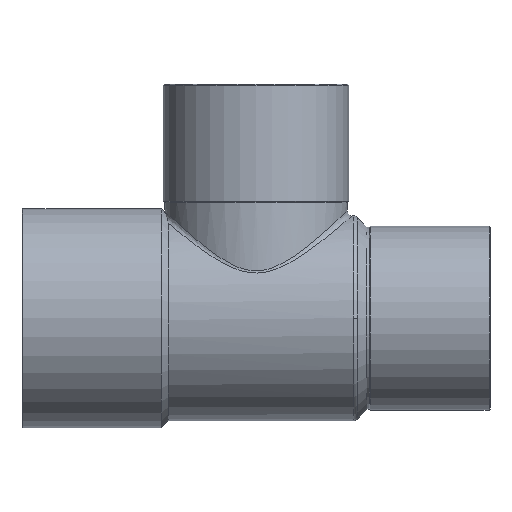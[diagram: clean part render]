
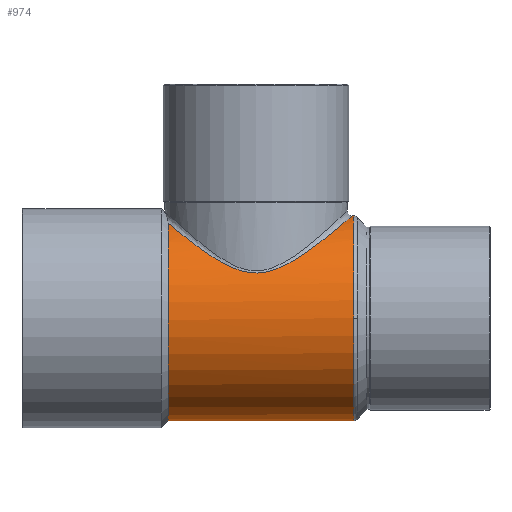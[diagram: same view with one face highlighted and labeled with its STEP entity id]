
A CAD part, top view. The second image highlights one B-rep face of the part: STEP entity #974.
In plain terms, the highlighted cylindrical face has radius 21 mm (diameter 42 mm), a partial arc.
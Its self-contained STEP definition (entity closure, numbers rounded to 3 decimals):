
#356=CARTESIAN_POINT('',(-17.987,-21.0,0.));
#357=VERTEX_POINT('',#356);
#364=CARTESIAN_POINT('',(-17.987,19.503,7.787));
#365=VERTEX_POINT('',#364);
#366=CARTESIAN_POINT('',(-17.987,0.0,0.0));
#367=DIRECTION('',(1.0,0.0,0.0));
#368=DIRECTION('',(0.0,1.0,0.0));
#369=AXIS2_PLACEMENT_3D('',#366,#367,#368);
#370=CIRCLE('',#369,21.0);
#371=EDGE_CURVE('',#365,#357,#370,.T.);
#904=CARTESIAN_POINT('',(1.225,0.0,0.0));
#905=DIRECTION('',(1.0,0.0,0.0));
#906=DIRECTION('',(0.0,1.0,0.0));
#907=AXIS2_PLACEMENT_3D('',#904,#905,#906);
#908=CYLINDRICAL_SURFACE('',#907,21.0);
#909=CARTESIAN_POINT('',(19.75,21.0,0.));
#910=VERTEX_POINT('',#909);
#911=CARTESIAN_POINT('',(20.022,21.0,0.0));
#912=VERTEX_POINT('',#911);
#913=CARTESIAN_POINT('',(19.75,21.0,0.));
#914=DIRECTION('',(1.0,0.0,0.));
#915=VECTOR('',#914,0.272);
#916=LINE('',#913,#915);
#917=EDGE_CURVE('',#910,#912,#916,.T.);
#918=ORIENTED_EDGE('',*,*,#917,.F.);
#919=CARTESIAN_POINT('',(-17.987,19.503,7.787));
#920=CARTESIAN_POINT('',(-16.858,18.555,10.162));
#921=CARTESIAN_POINT('',(-15.296,17.255,12.163));
#922=CARTESIAN_POINT('',(-13.466,15.837,13.791));
#923=CARTESIAN_POINT('',(-11.632,14.416,15.423));
#924=CARTESIAN_POINT('',(-9.554,12.864,16.676));
#925=CARTESIAN_POINT('',(-7.192,11.521,17.558));
#926=CARTESIAN_POINT('',(-4.901,10.217,18.413));
#927=CARTESIAN_POINT('',(-2.198,9.104,18.925));
#928=CARTESIAN_POINT('',(0.6,9.269,18.844));
#929=CARTESIAN_POINT('',(2.611,9.388,18.785));
#930=CARTESIAN_POINT('',(4.518,10.114,18.433));
#931=CARTESIAN_POINT('',(6.236,11.001,17.888));
#932=CARTESIAN_POINT('',(7.953,11.888,17.343));
#933=CARTESIAN_POINT('',(9.491,12.917,16.614));
#934=CARTESIAN_POINT('',(10.926,13.942,15.705));
#935=CARTESIAN_POINT('',(13.264,15.611,14.223));
#936=CARTESIAN_POINT('',(15.293,17.266,12.27));
#937=CARTESIAN_POINT('',(16.858,18.562,9.822));
#938=CARTESIAN_POINT('',(17.95,19.465,8.114));
#939=CARTESIAN_POINT('',(18.804,20.192,6.154));
#940=CARTESIAN_POINT('',(19.289,20.605,4.051));
#941=CARTESIAN_POINT('',(19.592,20.864,2.737));
#942=CARTESIAN_POINT('',(19.75,21.,1.366));
#943=CARTESIAN_POINT('',(19.75,21.0,0.));
#944=B_SPLINE_CURVE_WITH_KNOTS('',3,(#919,#920,#921,#922,#923,#924,#925,#926,#927,#928,#929,#930,#931,#932,#933,#934,#935,#936,#937,#938,#939,#940,#941,#942,#943),.UNSPECIFIED.,.F.,.U.,(4,3,3,3,3,3,3,3,4),(13.481,14.346,15.212,16.053,16.658,17.262,18.246,18.934,19.363),.UNSPECIFIED.);
#945=EDGE_CURVE('',#365,#910,#944,.T.);
#946=ORIENTED_EDGE('',*,*,#945,.F.);
#947=ORIENTED_EDGE('',*,*,#371,.T.);
#948=CARTESIAN_POINT('',(20.022,-21.0,0.));
#949=VERTEX_POINT('',#948);
#950=CARTESIAN_POINT('',(20.022,-21.0,0.));
#951=DIRECTION('',(-1.0,0.0,0.0));
#952=VECTOR('',#951,38.009);
#953=LINE('',#950,#952);
#954=EDGE_CURVE('',#949,#357,#953,.T.);
#955=ORIENTED_EDGE('',*,*,#954,.F.);
#956=CARTESIAN_POINT('',(20.022,0.,21.0));
#957=VERTEX_POINT('',#956);
#958=CARTESIAN_POINT('',(20.022,0.0,0.0));
#959=DIRECTION('',(1.0,0.0,0.0));
#960=DIRECTION('',(0.0,-1.0,0.0));
#961=AXIS2_PLACEMENT_3D('',#958,#959,#960);
#962=CIRCLE('',#961,21.0);
#963=EDGE_CURVE('',#957,#949,#962,.T.);
#964=ORIENTED_EDGE('',*,*,#963,.F.);
#965=CARTESIAN_POINT('',(20.022,0.0,0.0));
#966=DIRECTION('',(1.0,0.0,0.0));
#967=DIRECTION('',(0.0,-1.0,0.0));
#968=AXIS2_PLACEMENT_3D('',#965,#966,#967);
#969=CIRCLE('',#968,21.0);
#970=EDGE_CURVE('',#912,#957,#969,.T.);
#971=ORIENTED_EDGE('',*,*,#970,.F.);
#972=EDGE_LOOP('',(#918,#946,#947,#955,#964,#971));
#973=FACE_OUTER_BOUND('',#972,.T.);
#974=ADVANCED_FACE('',(#973),#908,.T.);
